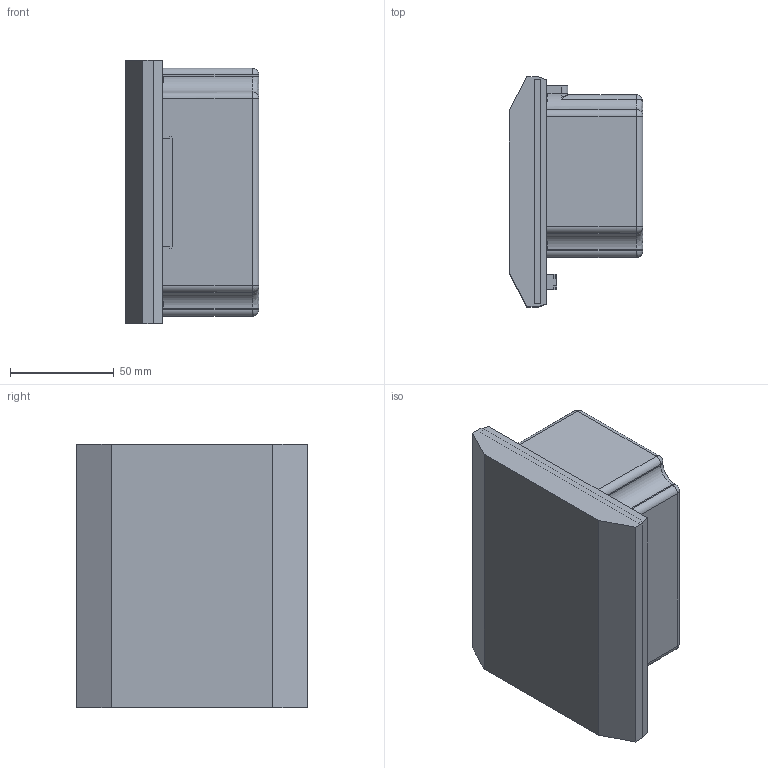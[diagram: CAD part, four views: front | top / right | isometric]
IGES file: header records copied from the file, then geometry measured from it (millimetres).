
Start section:  PTC IGES file: assy_tbx-68sw_sw0002.igs
Global section: file name: assy_tbx-68sw_sw0002.igs; native system: Pro/ENGINEER by Parametric Technology Corporation; preprocessor: 2006080; author: scarrasc; organization: Unknown; date: 071010.123054; units: inch
Bounding box: 64.37 x 111 x 126.75 mm (x, y, z)
Surface area: 133958.4 mm2 (no closed solid volume)
Topology: 0 solids, 0 shells, 1325 faces, 6254 edges, 6246 vertices
Faces by surface type: bspline 1008, revolution 317
